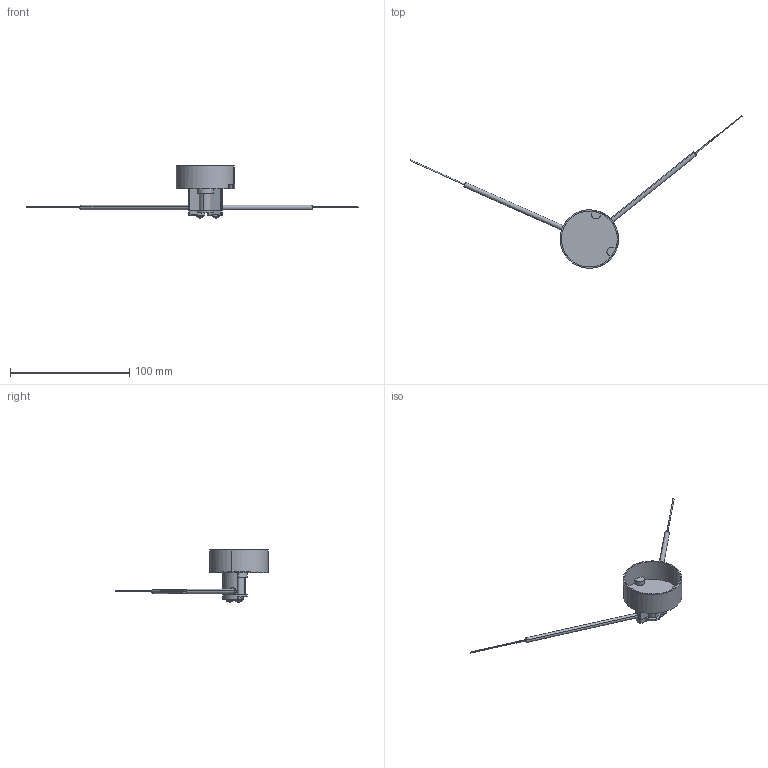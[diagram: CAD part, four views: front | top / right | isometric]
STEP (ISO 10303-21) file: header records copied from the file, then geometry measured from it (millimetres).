
FILE_DESCRIPTION (( 'STEP AP203' ), '1' );
FILE_NAME ('FU-20PRO.STEP', '2016-06-21T00:39:34', ( '' ), ( '' ), 'SwSTEP 2.0', 'SolidWorks 2014', '' );
FILE_SCHEMA (( 'CONFIG_CONTROL_DESIGN' ));
Length unit declared in the file: metre
Products named in the file (6): PROA20S-#-#-#-FU (6); PROA20S-#-#-#-FU (4); PR0A20S-#-#-#-FR (5); FU-20PRO; PR0A20S-#-#-#-FR (4); PR0A20S-#-#-#-FR (6)
Assembly tree (9 placements, depth 2):
  FU-20PRO
    PR0A20S-#-#-#-FR (6)
    PR0A20S-#-#-#-FR (4)  x2
    PR0A20S-#-#-#-FR (5)  x2
    PROA20S-#-#-#-FU (4)  x2
    PROA20S-#-#-#-FU (6)  x2
Bounding box: 278.31 x 127.79 x 43.61 mm (x, y, z)
Volume: 14451.3 mm3; surface area: 16782.4 mm2
Topology: 10 solids, 10 shells, 169 faces, 420 edges, 278 vertices
Faces by surface type: plane 83, cylinder 82, bspline 4
Entity records: 3918 total; most frequent: CARTESIAN_POINT 691, DIRECTION 562, ORIENTED_EDGE 504, EDGE_CURVE 252, AXIS2_PLACEMENT_3D 218, VERTEX_POINT 167, LINE 126, VECTOR 126
